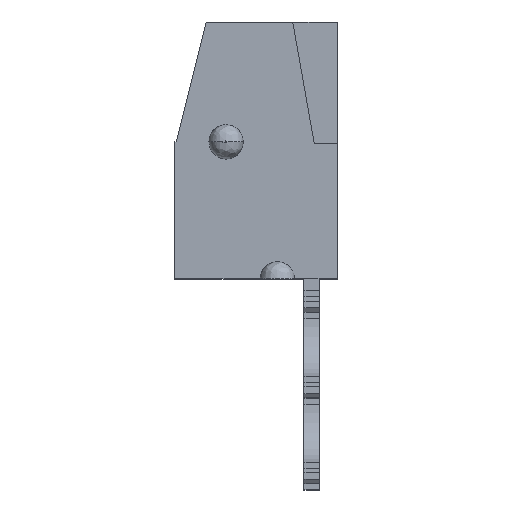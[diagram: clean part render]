
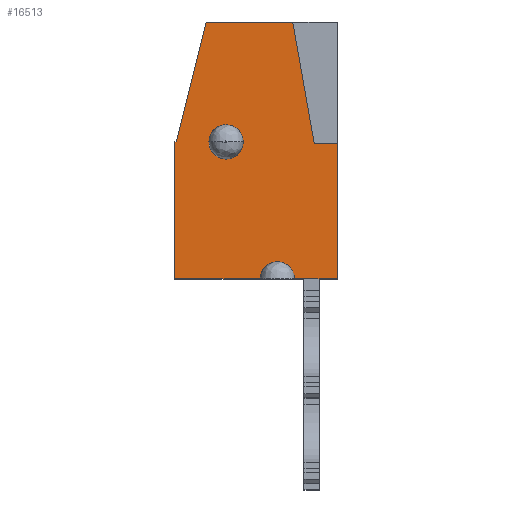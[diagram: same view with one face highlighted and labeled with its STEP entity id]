
A CAD part, top view. The second image highlights one B-rep face of the part: STEP entity #16513.
In plain terms, the highlighted planar face has unit normal (0, 0, 1).
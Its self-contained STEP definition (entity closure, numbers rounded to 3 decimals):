
#4552=DIRECTION('',(0.,1.,0.));
#4553=VECTOR('',#4552,7.9);
#4554=CARTESIAN_POINT('',(0.,0.,7.5));
#4555=LINE('',#4554,#4553);
#4588=DIRECTION('',(-1.,0.,0.));
#4589=VECTOR('',#4588,5.053);
#4590=CARTESIAN_POINT('',(-2.602,15.,7.5));
#4591=LINE('',#4590,#4589);
#5053=DIRECTION('',(-1.,0.,0.));
#5054=VECTOR('',#5053,2.5);
#5055=CARTESIAN_POINT('',(0.,0.,7.5));
#5056=LINE('',#5055,#5054);
#5057=CARTESIAN_POINT('',(-3.5,0.,7.5));
#5058=DIRECTION('',(0.,0.,1.));
#5059=DIRECTION('',(1.,0.,0.));
#5060=AXIS2_PLACEMENT_3D('',#5057,#5058,#5059);
#5062=DIRECTION('',(-1.,0.,0.));
#5063=VECTOR('',#5062,5.);
#5064=CARTESIAN_POINT('',(-4.5,0.,7.5));
#5065=LINE('',#5064,#5063);
#5066=DIRECTION('',(0.242,0.97,0.));
#5067=VECTOR('',#5066,7.214);
#5068=CARTESIAN_POINT('',(-9.4,8.,7.5));
#5069=LINE('',#5068,#5067);
#5070=DIRECTION('',(0.174,-0.985,0.));
#5071=VECTOR('',#5070,7.21);
#5072=CARTESIAN_POINT('',(-2.602,15.,7.5));
#5073=LINE('',#5072,#5071);
#5074=CARTESIAN_POINT('',(-6.5,8.,7.5));
#5075=DIRECTION('',(0.,0.,1.));
#5076=DIRECTION('',(-1.,0.,0.));
#5077=AXIS2_PLACEMENT_3D('',#5074,#5075,#5076);
#5079=CARTESIAN_POINT('',(-6.5,8.,7.5));
#5080=DIRECTION('',(0.,0.,1.));
#5081=DIRECTION('',(1.,0.,0.));
#5082=AXIS2_PLACEMENT_3D('',#5079,#5080,#5081);
#5092=DIRECTION('',(0.,-1.,0.));
#5093=VECTOR('',#5092,8.);
#5094=CARTESIAN_POINT('',(-9.5,8.,7.5));
#5095=LINE('',#5094,#5093);
#5181=DIRECTION('',(-1.,0.,0.));
#5182=VECTOR('',#5181,0.1);
#5183=CARTESIAN_POINT('',(-9.4,8.,7.5));
#5184=LINE('',#5183,#5182);
#11950=DIRECTION('',(-1.,0.,0.));
#11951=VECTOR('',#11950,1.35);
#11952=CARTESIAN_POINT('',(0.,7.9,7.5));
#11953=LINE('',#11952,#11951);
#13735=CARTESIAN_POINT('',(-2.5,0.,7.5));
#13736=VERTEX_POINT('',#13735);
#13737=CARTESIAN_POINT('',(0.,0.,7.5));
#13738=VERTEX_POINT('',#13737);
#13863=CARTESIAN_POINT('',(-9.5,0.,7.5));
#13864=VERTEX_POINT('',#13863);
#13865=CARTESIAN_POINT('',(-4.5,0.,7.5));
#13866=VERTEX_POINT('',#13865);
#13871=CARTESIAN_POINT('',(-9.5,8.,7.5));
#13872=VERTEX_POINT('',#13871);
#13873=CARTESIAN_POINT('',(-9.4,8.,7.5));
#13874=VERTEX_POINT('',#13873);
#13875=CARTESIAN_POINT('',(-7.655,15.,7.5));
#13876=VERTEX_POINT('',#13875);
#13877=CARTESIAN_POINT('',(-2.602,15.,7.5));
#13878=VERTEX_POINT('',#13877);
#13879=CARTESIAN_POINT('',(-1.35,7.9,7.5));
#13880=VERTEX_POINT('',#13879);
#13881=CARTESIAN_POINT('',(0.,7.9,7.5));
#13882=VERTEX_POINT('',#13881);
#13883=CARTESIAN_POINT('',(-7.5,8.,7.5));
#13884=CARTESIAN_POINT('',(-5.5,8.,7.5));
#13885=VERTEX_POINT('',#13883);
#13886=VERTEX_POINT('',#13884);
#16485=CARTESIAN_POINT('',(0.,0.,7.5));
#16486=DIRECTION('',(0.,0.,1.));
#16487=DIRECTION('',(1.,0.,0.));
#16488=AXIS2_PLACEMENT_3D('',#16485,#16486,#16487);
#16489=PLANE('',#16488);
#16490=ORIENTED_EDGE('',*,*,#16295,.T.);
#16491=ORIENTED_EDGE('',*,*,#16480,.T.);
#16492=ORIENTED_EDGE('',*,*,#16412,.T.);
#16494=ORIENTED_EDGE('',*,*,#16493,.F.);
#16496=ORIENTED_EDGE('',*,*,#16495,.F.);
#16498=ORIENTED_EDGE('',*,*,#16497,.T.);
#16499=ORIENTED_EDGE('',*,*,#15727,.F.);
#16501=ORIENTED_EDGE('',*,*,#16500,.T.);
#16503=ORIENTED_EDGE('',*,*,#16502,.F.);
#16504=ORIENTED_EDGE('',*,*,#15659,.F.);
#16505=EDGE_LOOP('',(#16490,#16491,#16492,#16494,#16496,#16498,#16499,#16501,
#16503,#16504));
#16506=FACE_OUTER_BOUND('',#16505,.F.);
#16508=ORIENTED_EDGE('',*,*,#16507,.T.);
#16510=ORIENTED_EDGE('',*,*,#16509,.T.);
#16511=EDGE_LOOP('',(#16508,#16510));
#16512=FACE_BOUND('',#16511,.F.);
#16513=ADVANCED_FACE('',(#16506,#16512),#16489,.T.);
#5061=CIRCLE('',#5060,1.);
#5078=CIRCLE('',#5077,1.);
#5083=CIRCLE('',#5082,1.);
#15659=EDGE_CURVE('',#13738,#13882,#4555,.T.);
#15727=EDGE_CURVE('',#13878,#13876,#4591,.T.);
#16295=EDGE_CURVE('',#13738,#13736,#5056,.T.);
#16412=EDGE_CURVE('',#13866,#13864,#5065,.T.);
#16480=EDGE_CURVE('',#13736,#13866,#5061,.T.);
#16493=EDGE_CURVE('',#13872,#13864,#5095,.T.);
#16495=EDGE_CURVE('',#13874,#13872,#5184,.T.);
#16497=EDGE_CURVE('',#13874,#13876,#5069,.T.);
#16500=EDGE_CURVE('',#13878,#13880,#5073,.T.);
#16502=EDGE_CURVE('',#13882,#13880,#11953,.T.);
#16507=EDGE_CURVE('',#13885,#13886,#5078,.T.);
#16509=EDGE_CURVE('',#13886,#13885,#5083,.T.);
